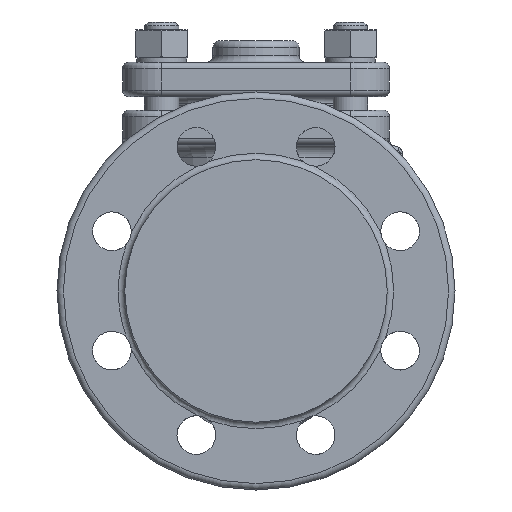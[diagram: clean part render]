
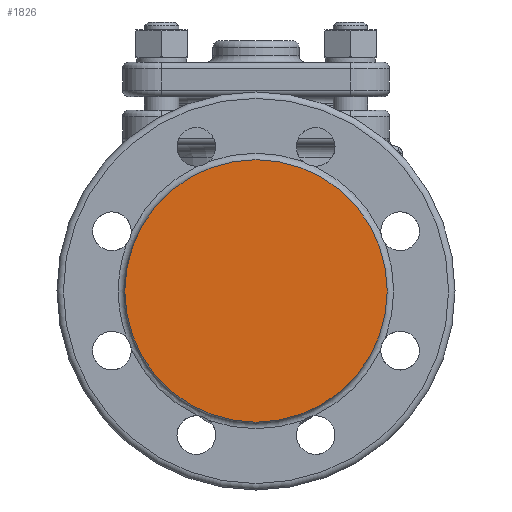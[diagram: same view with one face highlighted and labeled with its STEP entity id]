
A CAD part, front view. The second image highlights one B-rep face of the part: STEP entity #1826.
In plain terms, the highlighted planar face has unit normal (0, -1, 0).
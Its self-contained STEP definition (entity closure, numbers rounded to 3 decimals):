
#154=PLANE('',#8402);
#1347=CIRCLE('',#8401,61.);
#1826=ADVANCED_FACE('',(#2488),#154,.F.);
#2488=FACE_OUTER_BOUND('',#2972,.T.);
#2972=EDGE_LOOP('',(#3804));
#3804=ORIENTED_EDGE('',*,*,#6934,.F.);
#6174=VERTEX_POINT('',#26899);
#6934=EDGE_CURVE('',#6174,#6174,#1347,.T.);
#8401=AXIS2_PLACEMENT_3D('',#26898,#9451,#9452);
#8402=AXIS2_PLACEMENT_3D('',#26900,#9453,#9454);
#9451=DIRECTION('',(0.,1.,0.));
#9452=DIRECTION('',(-1.,0.,0.));
#9453=DIRECTION('',(0.,1.,0.));
#9454=DIRECTION('',(-1.,0.,0.));
#26898=CARTESIAN_POINT('',(0.,-143.25,-0.441));
#26899=CARTESIAN_POINT('',(-61.,-143.25,-0.441));
#26900=CARTESIAN_POINT('',(0.,-143.25,-0.441));
